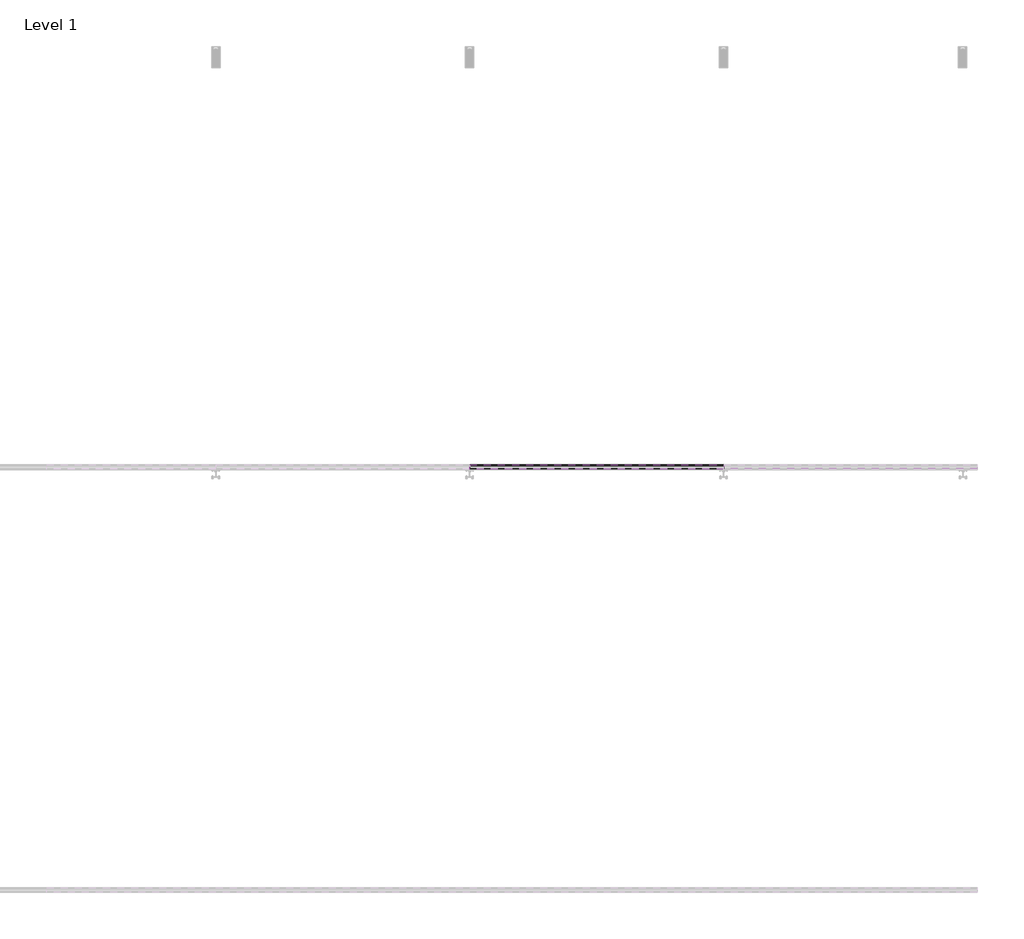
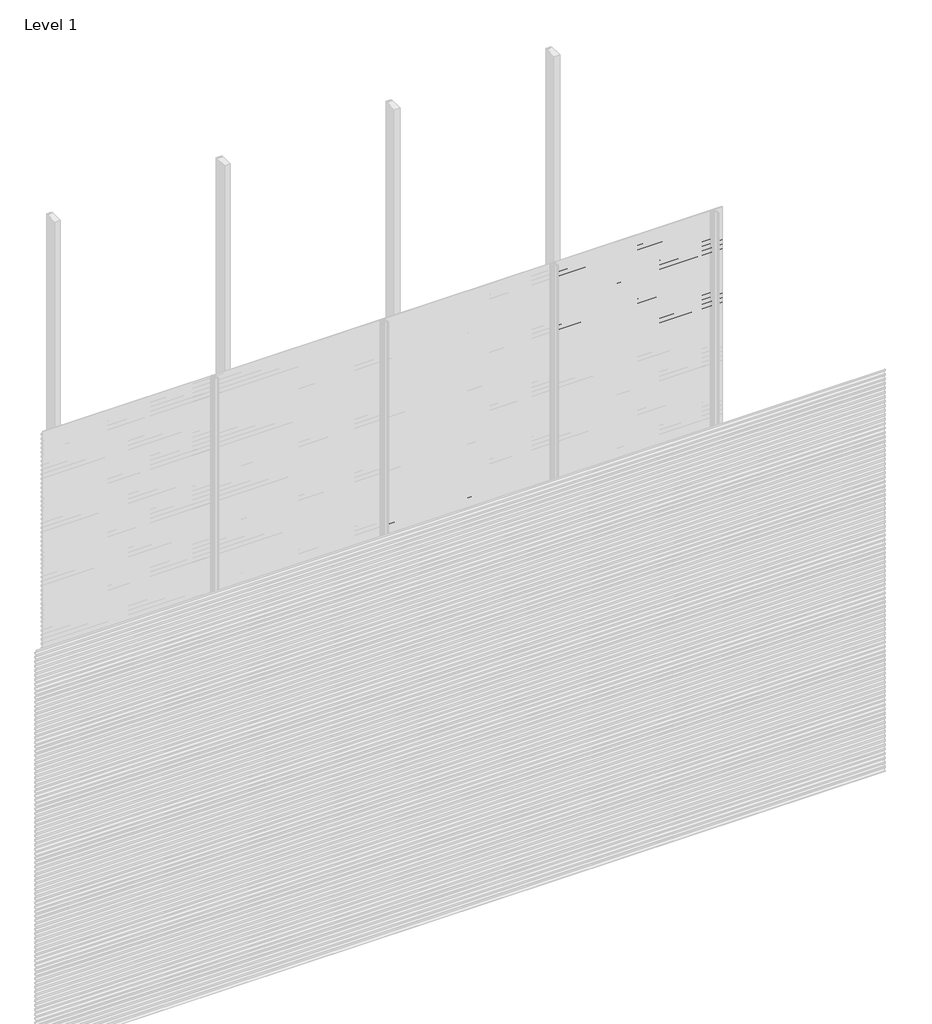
# One storey, part 24 of 77: 72 proxies.
"""IFC4 building model written with IfcOpenShell, lengths in millimetres."""

from ifc_helpers import new_model, si_unit, frame, origin, place, context, project, spatial, polyline, outline, extrude, element, save

model = new_model("IFC4")

# Units and contexts
model_context = context("Model", 3, world=origin())
ifc_project = project(units=[si_unit("LENGTHUNIT", "METRE", prefix="MILLI")], contexts=[model_context])

# Site, building, storey
site = spatial("IfcSite", under=ifc_project)
building = spatial("IfcBuilding", under=site)
storey = spatial("IfcBuildingStorey", under=building, Name="Level 1", Elevation=0.0)

# Proxies
placement = place(None, origin())
element("IfcBuildingElementProxy", 1, Name="Wall Sweeps", at=placement, inside=storey, context=model_context, shape_type="SweptSolid", body=[
    extrude(outline(polyline([(-41978.6, 1607.2359887), (-41998.0, 1618.4366691), (-41998.0, 1631.7), (-41997.0, 1631.7), (-41997.0, 1619.0191057), (-41977.6, 1607.8185105), (-41977.6, 1594.2185105), (-41978.6, 1595.7953129), (-41978.6, 1601.6032062), (-41995.9773817, 1593.5), (-41996.4, 1594.4063078), (-41978.6, 1602.7065841), (-41978.6, 1607.2359887)])), frame((3600.0, 0.0, 0.0), z_axis=(1.0, 0.0, 0.0), x_axis=(0.0, 1.0, 0.0)), (0.0, 0.0, 1.0), 1200.0),
])
element("IfcBuildingElementProxy", 2, Name="Wall Sweeps", at=placement, inside=storey, context=model_context, shape_type="SweptSolid", body=[
    extrude(outline(polyline([(-41978.6, 1573.9359887), (-41998.0, 1585.1366691), (-41998.0, 1598.4), (-41997.0, 1598.4), (-41997.0, 1585.7191057), (-41977.6, 1574.5185105), (-41977.6, 1560.9185105), (-41978.6, 1562.4953129), (-41978.6, 1568.3032062), (-41995.9773817, 1560.2), (-41996.4, 1561.1063078), (-41978.6, 1569.4065841), (-41978.6, 1573.9359887)])), frame((3600.0, 0.0, 0.0), z_axis=(1.0, 0.0, 0.0), x_axis=(0.0, 1.0, 0.0)), (0.0, 0.0, 1.0), 1200.0),
])
element("IfcBuildingElementProxy", 3, Name="Wall Sweeps", at=placement, inside=storey, context=model_context, shape_type="SweptSolid", body=[
    extrude(outline(polyline([(-41978.6, 1540.6359887), (-41998.0, 1551.8366691), (-41998.0, 1565.1), (-41997.0, 1565.1), (-41997.0, 1552.4191057), (-41977.6, 1541.2185105), (-41977.6, 1527.6185105), (-41978.6, 1529.1953129), (-41978.6, 1535.0032062), (-41995.9773817, 1526.9), (-41996.4, 1527.8063078), (-41978.6, 1536.1065841), (-41978.6, 1540.6359887)])), frame((3600.0, 0.0, 0.0), z_axis=(1.0, 0.0, 0.0), x_axis=(0.0, 1.0, 0.0)), (0.0, 0.0, 1.0), 1200.0),
])
element("IfcBuildingElementProxy", 4, Name="Wall Sweeps", at=placement, inside=storey, context=model_context, shape_type="SweptSolid", body=[
    extrude(outline(polyline([(-41978.6, 1507.3359887), (-41998.0, 1518.5366691), (-41998.0, 1531.8), (-41997.0, 1531.8), (-41997.0, 1519.1191057), (-41977.6, 1507.9185105), (-41977.6, 1494.3185105), (-41978.6, 1495.8953129), (-41978.6, 1501.7032062), (-41995.9773817, 1493.6), (-41996.4, 1494.5063078), (-41978.6, 1502.8065841), (-41978.6, 1507.3359887)])), frame((3600.0, 0.0, 0.0), z_axis=(1.0, 0.0, 0.0), x_axis=(0.0, 1.0, 0.0)), (0.0, 0.0, 1.0), 1200.0),
])
element("IfcBuildingElementProxy", 5, Name="Wall Sweeps", at=placement, inside=storey, context=model_context, shape_type="SweptSolid", body=[
    extrude(outline(polyline([(-41978.6, 1474.0359887), (-41998.0, 1485.2366691), (-41998.0, 1498.5), (-41997.0, 1498.5), (-41997.0, 1485.8191057), (-41977.6, 1474.6185105), (-41977.6, 1461.0185105), (-41978.6, 1462.5953129), (-41978.6, 1468.4032062), (-41995.9773817, 1460.3), (-41996.4, 1461.2063078), (-41978.6, 1469.5065841), (-41978.6, 1474.0359887)])), frame((3600.0, 0.0, 0.0), z_axis=(1.0, 0.0, 0.0), x_axis=(0.0, 1.0, 0.0)), (0.0, 0.0, 1.0), 1200.0),
])
element("IfcBuildingElementProxy", 6, Name="Wall Sweeps", at=placement, inside=storey, context=model_context, shape_type="SweptSolid", body=[
    extrude(outline(polyline([(-41978.6, 1440.7359887), (-41998.0, 1451.9366691), (-41998.0, 1465.2), (-41997.0, 1465.2), (-41997.0, 1452.5191057), (-41977.6, 1441.3185105), (-41977.6, 1427.7185105), (-41978.6, 1429.2953129), (-41978.6, 1435.1032062), (-41995.9773817, 1427.0), (-41996.4, 1427.9063078), (-41978.6, 1436.2065841), (-41978.6, 1440.7359887)])), frame((3600.0, 0.0, 0.0), z_axis=(1.0, 0.0, 0.0), x_axis=(0.0, 1.0, 0.0)), (0.0, 0.0, 1.0), 1200.0),
])
element("IfcBuildingElementProxy", 7, Name="Wall Sweeps", at=placement, inside=storey, context=model_context, shape_type="SweptSolid", body=[
    extrude(outline(polyline([(-41978.6, 1407.4359887), (-41998.0, 1418.6366691), (-41998.0, 1431.9), (-41997.0, 1431.9), (-41997.0, 1419.2191057), (-41977.6, 1408.0185105), (-41977.6, 1394.4185105), (-41978.6, 1395.9953129), (-41978.6, 1401.8032062), (-41995.9773817, 1393.7), (-41996.4, 1394.6063078), (-41978.6, 1402.9065841), (-41978.6, 1407.4359887)])), frame((3600.0, 0.0, 0.0), z_axis=(1.0, 0.0, 0.0), x_axis=(0.0, 1.0, 0.0)), (0.0, 0.0, 1.0), 1200.0),
])
element("IfcBuildingElementProxy", 8, Name="Wall Sweeps", at=placement, inside=storey, context=model_context, shape_type="SweptSolid", body=[
    extrude(outline(polyline([(-41978.6, 1374.1359887), (-41998.0, 1385.3366691), (-41998.0, 1398.6), (-41997.0, 1398.6), (-41997.0, 1385.9191057), (-41977.6, 1374.7185105), (-41977.6, 1361.1185105), (-41978.6, 1362.6953129), (-41978.6, 1368.5032062), (-41995.9773817, 1360.4), (-41996.4, 1361.3063078), (-41978.6, 1369.6065841), (-41978.6, 1374.1359887)])), frame((3600.0, 0.0, 0.0), z_axis=(1.0, 0.0, 0.0), x_axis=(0.0, 1.0, 0.0)), (0.0, 0.0, 1.0), 1200.0),
])
element("IfcBuildingElementProxy", 9, Name="Wall Sweeps", at=placement, inside=storey, context=model_context, shape_type="SweptSolid", body=[
    extrude(outline(polyline([(-41978.6, 1340.8359887), (-41998.0, 1352.0366691), (-41998.0, 1365.3), (-41997.0, 1365.3), (-41997.0, 1352.6191057), (-41977.6, 1341.4185105), (-41977.6, 1327.8185105), (-41978.6, 1329.3953129), (-41978.6, 1335.2032062), (-41995.9773817, 1327.1), (-41996.4, 1328.0063078), (-41978.6, 1336.3065841), (-41978.6, 1340.8359887)])), frame((3600.0, 0.0, 0.0), z_axis=(1.0, 0.0, 0.0), x_axis=(0.0, 1.0, 0.0)), (0.0, 0.0, 1.0), 1200.0),
])
element("IfcBuildingElementProxy", 10, Name="Wall Sweeps", at=placement, inside=storey, context=model_context, shape_type="SweptSolid", body=[
    extrude(outline(polyline([(-41978.6, 1307.5359887), (-41998.0, 1318.7366691), (-41998.0, 1332.0), (-41997.0, 1332.0), (-41997.0, 1319.3191057), (-41977.6, 1308.1185105), (-41977.6, 1294.5185105), (-41978.6, 1296.0953129), (-41978.6, 1301.9032062), (-41995.9773817, 1293.8), (-41996.4, 1294.7063078), (-41978.6, 1303.0065841), (-41978.6, 1307.5359887)])), frame((3600.0, 0.0, 0.0), z_axis=(1.0, 0.0, 0.0), x_axis=(0.0, 1.0, 0.0)), (0.0, 0.0, 1.0), 1200.0),
])
element("IfcBuildingElementProxy", 11, Name="Wall Sweeps", at=placement, inside=storey, context=model_context, shape_type="SweptSolid", body=[
    extrude(outline(polyline([(-41978.6, 1274.2359887), (-41998.0, 1285.4366691), (-41998.0, 1298.7), (-41997.0, 1298.7), (-41997.0, 1286.0191057), (-41977.6, 1274.8185105), (-41977.6, 1261.2185105), (-41978.6, 1262.7953129), (-41978.6, 1268.6032062), (-41995.9773817, 1260.5), (-41996.4, 1261.4063078), (-41978.6, 1269.7065841), (-41978.6, 1274.2359887)])), frame((3600.0, 0.0, 0.0), z_axis=(1.0, 0.0, 0.0), x_axis=(0.0, 1.0, 0.0)), (0.0, 0.0, 1.0), 1200.0),
])
element("IfcBuildingElementProxy", 12, Name="Wall Sweeps", at=placement, inside=storey, context=model_context, shape_type="SweptSolid", body=[
    extrude(outline(polyline([(-41978.6, 1240.9359887), (-41998.0, 1252.1366691), (-41998.0, 1265.4), (-41997.0, 1265.4), (-41997.0, 1252.7191057), (-41977.6, 1241.5185105), (-41977.6, 1227.9185105), (-41978.6, 1229.4953129), (-41978.6, 1235.3032062), (-41995.9773817, 1227.2), (-41996.4, 1228.1063078), (-41978.6, 1236.4065841), (-41978.6, 1240.9359887)])), frame((3600.0, 0.0, 0.0), z_axis=(1.0, 0.0, 0.0), x_axis=(0.0, 1.0, 0.0)), (0.0, 0.0, 1.0), 1200.0),
])
element("IfcBuildingElementProxy", 13, Name="Wall Sweeps", at=placement, inside=storey, context=model_context, shape_type="SweptSolid", body=[
    extrude(outline(polyline([(-41978.6, 1207.6359887), (-41998.0, 1218.8366691), (-41998.0, 1232.1), (-41997.0, 1232.1), (-41997.0, 1219.4191057), (-41977.6, 1208.2185105), (-41977.6, 1194.6185105), (-41978.6, 1196.1953129), (-41978.6, 1202.0032062), (-41995.9773817, 1193.9), (-41996.4, 1194.8063078), (-41978.6, 1203.1065841), (-41978.6, 1207.6359887)])), frame((3600.0, 0.0, 0.0), z_axis=(1.0, 0.0, 0.0), x_axis=(0.0, 1.0, 0.0)), (0.0, 0.0, 1.0), 1200.0),
])
element("IfcBuildingElementProxy", 14, Name="Wall Sweeps", at=placement, inside=storey, context=model_context, shape_type="SweptSolid", body=[
    extrude(outline(polyline([(-41978.6, 1174.3359887), (-41998.0, 1185.5366691), (-41998.0, 1198.8), (-41997.0, 1198.8), (-41997.0, 1186.1191057), (-41977.6, 1174.9185105), (-41977.6, 1161.3185105), (-41978.6, 1162.8953129), (-41978.6, 1168.7032062), (-41995.9773817, 1160.6), (-41996.4, 1161.5063078), (-41978.6, 1169.8065841), (-41978.6, 1174.3359887)])), frame((3600.0, 0.0, 0.0), z_axis=(1.0, 0.0, 0.0), x_axis=(0.0, 1.0, 0.0)), (0.0, 0.0, 1.0), 1200.0),
])
element("IfcBuildingElementProxy", 15, Name="Wall Sweeps", at=placement, inside=storey, context=model_context, shape_type="SweptSolid", body=[
    extrude(outline(polyline([(-41978.6, 1141.0359887), (-41998.0, 1152.2366691), (-41998.0, 1165.5), (-41997.0, 1165.5), (-41997.0, 1152.8191057), (-41977.6, 1141.6185105), (-41977.6, 1128.0185105), (-41978.6, 1129.5953129), (-41978.6, 1135.4032062), (-41995.9773817, 1127.3), (-41996.4, 1128.2063078), (-41978.6, 1136.5065841), (-41978.6, 1141.0359887)])), frame((3600.0, 0.0, 0.0), z_axis=(1.0, 0.0, 0.0), x_axis=(0.0, 1.0, 0.0)), (0.0, 0.0, 1.0), 1200.0),
])
element("IfcBuildingElementProxy", 16, Name="Wall Sweeps", at=placement, inside=storey, context=model_context, shape_type="SweptSolid", body=[
    extrude(outline(polyline([(-41978.6, 1107.7359887), (-41998.0, 1118.9366691), (-41998.0, 1132.2), (-41997.0, 1132.2), (-41997.0, 1119.5191057), (-41977.6, 1108.3185105), (-41977.6, 1094.7185105), (-41978.6, 1096.2953129), (-41978.6, 1102.1032062), (-41995.9773817, 1094.0), (-41996.4, 1094.9063078), (-41978.6, 1103.2065841), (-41978.6, 1107.7359887)])), frame((3600.0, 0.0, 0.0), z_axis=(1.0, 0.0, 0.0), x_axis=(0.0, 1.0, 0.0)), (0.0, 0.0, 1.0), 1200.0),
])
element("IfcBuildingElementProxy", 17, Name="Wall Sweeps", at=placement, inside=storey, context=model_context, shape_type="SweptSolid", body=[
    extrude(outline(polyline([(-41978.6, 1074.4359887), (-41998.0, 1085.6366691), (-41998.0, 1098.9), (-41997.0, 1098.9), (-41997.0, 1086.2191057), (-41977.6, 1075.0185105), (-41977.6, 1061.4185105), (-41978.6, 1062.9953129), (-41978.6, 1068.8032062), (-41995.9773817, 1060.7), (-41996.4, 1061.6063078), (-41978.6, 1069.9065841), (-41978.6, 1074.4359887)])), frame((3600.0, 0.0, 0.0), z_axis=(1.0, 0.0, 0.0), x_axis=(0.0, 1.0, 0.0)), (0.0, 0.0, 1.0), 1200.0),
])
element("IfcBuildingElementProxy", 18, Name="Wall Sweeps", at=placement, inside=storey, context=model_context, shape_type="SweptSolid", body=[
    extrude(outline(polyline([(-41978.6, 1041.1359887), (-41998.0, 1052.3366691), (-41998.0, 1065.6), (-41997.0, 1065.6), (-41997.0, 1052.9191057), (-41977.6, 1041.7185105), (-41977.6, 1028.1185105), (-41978.6, 1029.6953129), (-41978.6, 1035.5032062), (-41995.9773817, 1027.4), (-41996.4, 1028.3063078), (-41978.6, 1036.6065841), (-41978.6, 1041.1359887)])), frame((3600.0, 0.0, 0.0), z_axis=(1.0, 0.0, 0.0), x_axis=(0.0, 1.0, 0.0)), (0.0, 0.0, 1.0), 1200.0),
])
element("IfcBuildingElementProxy", 19, Name="Wall Sweeps", at=placement, inside=storey, context=model_context, shape_type="SweptSolid", body=[
    extrude(outline(polyline([(-41978.6, 1007.8359887), (-41998.0, 1019.0366691), (-41998.0, 1032.3), (-41997.0, 1032.3), (-41997.0, 1019.6191057), (-41977.6, 1008.4185105), (-41977.6, 994.8185105), (-41978.6, 996.3953129), (-41978.6, 1002.2032062), (-41995.9773817, 994.1), (-41996.4, 995.0063078), (-41978.6, 1003.3065841), (-41978.6, 1007.8359887)])), frame((3600.0, 0.0, 0.0), z_axis=(1.0, 0.0, 0.0), x_axis=(0.0, 1.0, 0.0)), (0.0, 0.0, 1.0), 1200.0),
])
element("IfcBuildingElementProxy", 20, Name="Wall Sweeps", at=placement, inside=storey, context=model_context, shape_type="SweptSolid", body=[
    extrude(outline(polyline([(-41978.6, 974.5359887), (-41998.0, 985.7366691), (-41998.0, 999.0), (-41997.0, 999.0), (-41997.0, 986.3191057), (-41977.6, 975.1185105), (-41977.6, 961.5185105), (-41978.6, 963.0953129), (-41978.6, 968.9032062), (-41995.9773817, 960.8), (-41996.4, 961.7063078), (-41978.6, 970.0065841), (-41978.6, 974.5359887)])), frame((3600.0, 0.0, 0.0), z_axis=(1.0, 0.0, 0.0), x_axis=(0.0, 1.0, 0.0)), (0.0, 0.0, 1.0), 1200.0),
])
element("IfcBuildingElementProxy", 21, Name="Wall Sweeps", at=placement, inside=storey, context=model_context, shape_type="SweptSolid", body=[
    extrude(outline(polyline([(-41978.6, 941.2359887), (-41998.0, 952.4366691), (-41998.0, 965.7), (-41997.0, 965.7), (-41997.0, 953.0191057), (-41977.6, 941.8185105), (-41977.6, 928.2185105), (-41978.6, 929.7953129), (-41978.6, 935.6032062), (-41995.9773817, 927.5), (-41996.4, 928.4063078), (-41978.6, 936.7065841), (-41978.6, 941.2359887)])), frame((3600.0, 0.0, 0.0), z_axis=(1.0, 0.0, 0.0), x_axis=(0.0, 1.0, 0.0)), (0.0, 0.0, 1.0), 1200.0),
])
element("IfcBuildingElementProxy", 22, Name="Wall Sweeps", at=placement, inside=storey, context=model_context, shape_type="SweptSolid", body=[
    extrude(outline(polyline([(-41978.6, 907.9359887), (-41998.0, 919.1366691), (-41998.0, 932.4), (-41997.0, 932.4), (-41997.0, 919.7191057), (-41977.6, 908.5185105), (-41977.6, 894.9185105), (-41978.6, 896.4953129), (-41978.6, 902.3032062), (-41995.9773817, 894.2), (-41996.4, 895.1063078), (-41978.6, 903.4065841), (-41978.6, 907.9359887)])), frame((3600.0, 0.0, 0.0), z_axis=(1.0, 0.0, 0.0), x_axis=(0.0, 1.0, 0.0)), (0.0, 0.0, 1.0), 1200.0),
])
element("IfcBuildingElementProxy", 23, Name="Wall Sweeps", at=placement, inside=storey, context=model_context, shape_type="SweptSolid", body=[
    extrude(outline(polyline([(-41978.6, 874.6359887), (-41998.0, 885.8366691), (-41998.0, 899.1), (-41997.0, 899.1), (-41997.0, 886.4191057), (-41977.6, 875.2185105), (-41977.6, 861.6185105), (-41978.6, 863.1953129), (-41978.6, 869.0032062), (-41995.9773817, 860.9), (-41996.4, 861.8063078), (-41978.6, 870.1065841), (-41978.6, 874.6359887)])), frame((3600.0, 0.0, 0.0), z_axis=(1.0, 0.0, 0.0), x_axis=(0.0, 1.0, 0.0)), (0.0, 0.0, 1.0), 1200.0),
])
element("IfcBuildingElementProxy", 24, Name="Wall Sweeps", at=placement, inside=storey, context=model_context, shape_type="SweptSolid", body=[
    extrude(outline(polyline([(-41978.6, 841.3359887), (-41998.0, 852.5366691), (-41998.0, 865.8), (-41997.0, 865.8), (-41997.0, 853.1191057), (-41977.6, 841.9185105), (-41977.6, 828.3185105), (-41978.6, 829.8953129), (-41978.6, 835.7032062), (-41995.9773817, 827.6), (-41996.4, 828.5063078), (-41978.6, 836.8065841), (-41978.6, 841.3359887)])), frame((3600.0, 0.0, 0.0), z_axis=(1.0, 0.0, 0.0), x_axis=(0.0, 1.0, 0.0)), (0.0, 0.0, 1.0), 1200.0),
])
element("IfcBuildingElementProxy", 25, Name="Wall Sweeps", at=placement, inside=storey, context=model_context, shape_type="SweptSolid", body=[
    extrude(outline(polyline([(-41978.6, 808.0359887), (-41998.0, 819.2366691), (-41998.0, 832.5), (-41997.0, 832.5), (-41997.0, 819.8191057), (-41977.6, 808.6185105), (-41977.6, 795.0185105), (-41978.6, 796.5953129), (-41978.6, 802.4032062), (-41995.9773817, 794.3), (-41996.4, 795.2063078), (-41978.6, 803.5065841), (-41978.6, 808.0359887)])), frame((3600.0, 0.0, 0.0), z_axis=(1.0, 0.0, 0.0), x_axis=(0.0, 1.0, 0.0)), (0.0, 0.0, 1.0), 1200.0),
])
element("IfcBuildingElementProxy", 26, Name="Wall Sweeps", at=placement, inside=storey, context=model_context, shape_type="SweptSolid", body=[
    extrude(outline(polyline([(-41978.6, 774.7359887), (-41998.0, 785.9366691), (-41998.0, 799.2), (-41997.0, 799.2), (-41997.0, 786.5191057), (-41977.6, 775.3185105), (-41977.6, 761.7185105), (-41978.6, 763.2953129), (-41978.6, 769.1032062), (-41995.9773817, 761.0), (-41996.4, 761.9063078), (-41978.6, 770.2065841), (-41978.6, 774.7359887)])), frame((3600.0, 0.0, 0.0), z_axis=(1.0, 0.0, 0.0), x_axis=(0.0, 1.0, 0.0)), (0.0, 0.0, 1.0), 1200.0),
])
element("IfcBuildingElementProxy", 27, Name="Wall Sweeps", at=placement, inside=storey, context=model_context, shape_type="SweptSolid", body=[
    extrude(outline(polyline([(-41978.6, 741.4359887), (-41998.0, 752.6366691), (-41998.0, 765.9), (-41997.0, 765.9), (-41997.0, 753.2191057), (-41977.6, 742.0185105), (-41977.6, 728.4185105), (-41978.6, 729.9953129), (-41978.6, 735.8032062), (-41995.9773817, 727.7), (-41996.4, 728.6063078), (-41978.6, 736.9065841), (-41978.6, 741.4359887)])), frame((3600.0, 0.0, 0.0), z_axis=(1.0, 0.0, 0.0), x_axis=(0.0, 1.0, 0.0)), (0.0, 0.0, 1.0), 1200.0),
])
element("IfcBuildingElementProxy", 28, Name="Wall Sweeps", at=placement, inside=storey, context=model_context, shape_type="SweptSolid", body=[
    extrude(outline(polyline([(-41978.6, 708.1359887), (-41998.0, 719.3366691), (-41998.0, 732.6), (-41997.0, 732.6), (-41997.0, 719.9191057), (-41977.6, 708.7185105), (-41977.6, 695.1185105), (-41978.6, 696.6953129), (-41978.6, 702.5032062), (-41995.9773817, 694.4), (-41996.4, 695.3063078), (-41978.6, 703.6065841), (-41978.6, 708.1359887)])), frame((3600.0, 0.0, 0.0), z_axis=(1.0, 0.0, 0.0), x_axis=(0.0, 1.0, 0.0)), (0.0, 0.0, 1.0), 1200.0),
])
element("IfcBuildingElementProxy", 29, Name="Wall Sweeps", at=placement, inside=storey, context=model_context, shape_type="SweptSolid", body=[
    extrude(outline(polyline([(-41978.6, 674.8359887), (-41998.0, 686.0366691), (-41998.0, 699.3), (-41997.0, 699.3), (-41997.0, 686.6191057), (-41977.6, 675.4185105), (-41977.6, 661.8185105), (-41978.6, 663.3953129), (-41978.6, 669.2032062), (-41995.9773817, 661.1), (-41996.4, 662.0063078), (-41978.6, 670.3065841), (-41978.6, 674.8359887)])), frame((3600.0, 0.0, 0.0), z_axis=(1.0, 0.0, 0.0), x_axis=(0.0, 1.0, 0.0)), (0.0, 0.0, 1.0), 1200.0),
])
element("IfcBuildingElementProxy", 30, Name="Wall Sweeps", at=placement, inside=storey, context=model_context, shape_type="SweptSolid", body=[
    extrude(outline(polyline([(-41978.6, 641.5359887), (-41998.0, 652.7366691), (-41998.0, 666.0), (-41997.0, 666.0), (-41997.0, 653.3191057), (-41977.6, 642.1185105), (-41977.6, 628.5185105), (-41978.6, 630.0953129), (-41978.6, 635.9032062), (-41995.9773817, 627.8), (-41996.4, 628.7063078), (-41978.6, 637.0065841), (-41978.6, 641.5359887)])), frame((3600.0, 0.0, 0.0), z_axis=(1.0, 0.0, 0.0), x_axis=(0.0, 1.0, 0.0)), (0.0, 0.0, 1.0), 1200.0),
])
element("IfcBuildingElementProxy", 31, Name="Wall Sweeps", at=placement, inside=storey, context=model_context, shape_type="SweptSolid", body=[
    extrude(outline(polyline([(-41978.6, 608.2359887), (-41998.0, 619.4366691), (-41998.0, 632.7), (-41997.0, 632.7), (-41997.0, 620.0191057), (-41977.6, 608.8185105), (-41977.6, 595.2185105), (-41978.6, 596.7953129), (-41978.6, 602.6032062), (-41995.9773817, 594.5), (-41996.4, 595.4063078), (-41978.6, 603.7065841), (-41978.6, 608.2359887)])), frame((3600.0, 0.0, 0.0), z_axis=(1.0, 0.0, 0.0), x_axis=(0.0, 1.0, 0.0)), (0.0, 0.0, 1.0), 1200.0),
])
element("IfcBuildingElementProxy", 32, Name="Wall Sweeps", at=placement, inside=storey, context=model_context, shape_type="SweptSolid", body=[
    extrude(outline(polyline([(-41978.6, 574.9359887), (-41998.0, 586.1366691), (-41998.0, 599.4), (-41997.0, 599.4), (-41997.0, 586.7191057), (-41977.6, 575.5185105), (-41977.6, 561.9185105), (-41978.6, 563.4953129), (-41978.6, 569.3032062), (-41995.9773817, 561.2), (-41996.4, 562.1063078), (-41978.6, 570.4065841), (-41978.6, 574.9359887)])), frame((3600.0, 0.0, 0.0), z_axis=(1.0, 0.0, 0.0), x_axis=(0.0, 1.0, 0.0)), (0.0, 0.0, 1.0), 1200.0),
])
element("IfcBuildingElementProxy", 33, Name="Wall Sweeps", at=placement, inside=storey, context=model_context, shape_type="SweptSolid", body=[
    extrude(outline(polyline([(-41978.6, 541.6359887), (-41998.0, 552.8366691), (-41998.0, 566.1), (-41997.0, 566.1), (-41997.0, 553.4191057), (-41977.6, 542.2185105), (-41977.6, 528.6185105), (-41978.6, 530.1953129), (-41978.6, 536.0032062), (-41995.9773817, 527.9), (-41996.4, 528.8063078), (-41978.6, 537.1065841), (-41978.6, 541.6359887)])), frame((3600.0, 0.0, 0.0), z_axis=(1.0, 0.0, 0.0), x_axis=(0.0, 1.0, 0.0)), (0.0, 0.0, 1.0), 1200.0),
])
element("IfcBuildingElementProxy", 34, Name="Wall Sweeps", at=placement, inside=storey, context=model_context, shape_type="SweptSolid", body=[
    extrude(outline(polyline([(-41978.6, 508.3359887), (-41998.0, 519.5366691), (-41998.0, 532.8), (-41997.0, 532.8), (-41997.0, 520.1191057), (-41977.6, 508.9185105), (-41977.6, 495.3185105), (-41978.6, 496.8953129), (-41978.6, 502.7032062), (-41995.9773817, 494.6), (-41996.4, 495.5063078), (-41978.6, 503.8065841), (-41978.6, 508.3359887)])), frame((3600.0, 0.0, 0.0), z_axis=(1.0, 0.0, 0.0), x_axis=(0.0, 1.0, 0.0)), (0.0, 0.0, 1.0), 1200.0),
])
element("IfcBuildingElementProxy", 35, Name="Wall Sweeps", at=placement, inside=storey, context=model_context, shape_type="SweptSolid", body=[
    extrude(outline(polyline([(-41978.6, 475.0359887), (-41998.0, 486.2366691), (-41998.0, 499.5), (-41997.0, 499.5), (-41997.0, 486.8191057), (-41977.6, 475.6185105), (-41977.6, 462.0185105), (-41978.6, 463.5953129), (-41978.6, 469.4032062), (-41995.9773817, 461.3), (-41996.4, 462.2063078), (-41978.6, 470.5065841), (-41978.6, 475.0359887)])), frame((3600.0, 0.0, 0.0), z_axis=(1.0, 0.0, 0.0), x_axis=(0.0, 1.0, 0.0)), (0.0, 0.0, 1.0), 1200.0),
])
element("IfcBuildingElementProxy", 36, Name="Wall Sweeps", at=placement, inside=storey, context=model_context, shape_type="SweptSolid", body=[
    extrude(outline(polyline([(-41978.6, 441.7359887), (-41998.0, 452.9366691), (-41998.0, 466.2), (-41997.0, 466.2), (-41997.0, 453.5191057), (-41977.6, 442.3185105), (-41977.6, 428.7185105), (-41978.6, 430.2953129), (-41978.6, 436.1032062), (-41995.9773817, 428.0), (-41996.4, 428.9063078), (-41978.6, 437.2065841), (-41978.6, 441.7359887)])), frame((3600.0, 0.0, 0.0), z_axis=(1.0, 0.0, 0.0), x_axis=(0.0, 1.0, 0.0)), (0.0, 0.0, 1.0), 1200.0),
])
element("IfcBuildingElementProxy", 37, Name="Wall Sweeps", at=placement, inside=storey, context=model_context, shape_type="SweptSolid", body=[
    extrude(outline(polyline([(-41978.6, 408.4359887), (-41998.0, 419.6366691), (-41998.0, 432.9), (-41997.0, 432.9), (-41997.0, 420.2191057), (-41977.6, 409.0185105), (-41977.6, 395.4185105), (-41978.6, 396.9953129), (-41978.6, 402.8032062), (-41995.9773817, 394.7), (-41996.4, 395.6063078), (-41978.6, 403.9065841), (-41978.6, 408.4359887)])), frame((3600.0, 0.0, 0.0), z_axis=(1.0, 0.0, 0.0), x_axis=(0.0, 1.0, 0.0)), (0.0, 0.0, 1.0), 1200.0),
])
element("IfcBuildingElementProxy", 38, Name="Wall Sweeps", at=placement, inside=storey, context=model_context, shape_type="SweptSolid", body=[
    extrude(outline(polyline([(-41978.6, 375.1359887), (-41998.0, 386.3366691), (-41998.0, 399.6), (-41997.0, 399.6), (-41997.0, 386.9191057), (-41977.6, 375.7185105), (-41977.6, 362.1185105), (-41978.6, 363.6953129), (-41978.6, 369.5032062), (-41995.9773817, 361.4), (-41996.4, 362.3063078), (-41978.6, 370.6065841), (-41978.6, 375.1359887)])), frame((3600.0, 0.0, 0.0), z_axis=(1.0, 0.0, 0.0), x_axis=(0.0, 1.0, 0.0)), (0.0, 0.0, 1.0), 1200.0),
])
element("IfcBuildingElementProxy", 39, Name="Wall Sweeps", at=placement, inside=storey, context=model_context, shape_type="SweptSolid", body=[
    extrude(outline(polyline([(-41978.6, 341.8359887), (-41998.0, 353.0366691), (-41998.0, 366.3), (-41997.0, 366.3), (-41997.0, 353.6191057), (-41977.6, 342.4185105), (-41977.6, 328.8185105), (-41978.6, 330.3953129), (-41978.6, 336.2032062), (-41995.9773817, 328.1), (-41996.4, 329.0063078), (-41978.6, 337.3065841), (-41978.6, 341.8359887)])), frame((3600.0, 0.0, 0.0), z_axis=(1.0, 0.0, 0.0), x_axis=(0.0, 1.0, 0.0)), (0.0, 0.0, 1.0), 1200.0),
])
element("IfcBuildingElementProxy", 40, Name="Wall Sweeps", at=placement, inside=storey, context=model_context, shape_type="SweptSolid", body=[
    extrude(outline(polyline([(-41978.6, 308.5359887), (-41998.0, 319.7366691), (-41998.0, 333.0), (-41997.0, 333.0), (-41997.0, 320.3191057), (-41977.6, 309.1185105), (-41977.6, 295.5185105), (-41978.6, 297.0953129), (-41978.6, 302.9032062), (-41995.9773817, 294.8), (-41996.4, 295.7063078), (-41978.6, 304.0065841), (-41978.6, 308.5359887)])), frame((3600.0, 0.0, 0.0), z_axis=(1.0, 0.0, 0.0), x_axis=(0.0, 1.0, 0.0)), (0.0, 0.0, 1.0), 1200.0),
])
element("IfcBuildingElementProxy", 41, Name="Wall Sweeps", at=placement, inside=storey, context=model_context, shape_type="SweptSolid", body=[
    extrude(outline(polyline([(-41978.6, 275.2359887), (-41998.0, 286.4366691), (-41998.0, 299.7), (-41997.0, 299.7), (-41997.0, 287.0191057), (-41977.6, 275.8185105), (-41977.6, 262.2185105), (-41978.6, 263.7953129), (-41978.6, 269.6032062), (-41995.9773817, 261.5), (-41996.4, 262.4063078), (-41978.6, 270.7065841), (-41978.6, 275.2359887)])), frame((3600.0, 0.0, 0.0), z_axis=(1.0, 0.0, 0.0), x_axis=(0.0, 1.0, 0.0)), (0.0, 0.0, 1.0), 1200.0),
])
element("IfcBuildingElementProxy", 42, Name="Wall Sweeps", at=placement, inside=storey, context=model_context, shape_type="SweptSolid", body=[
    extrude(outline(polyline([(-41978.6, 241.9359887), (-41998.0, 253.1366691), (-41998.0, 266.4), (-41997.0, 266.4), (-41997.0, 253.7191057), (-41977.6, 242.5185105), (-41977.6, 228.9185105), (-41978.6, 230.4953129), (-41978.6, 236.3032062), (-41995.9773817, 228.2), (-41996.4, 229.1063078), (-41978.6, 237.4065841), (-41978.6, 241.9359887)])), frame((3600.0, 0.0, 0.0), z_axis=(1.0, 0.0, 0.0), x_axis=(0.0, 1.0, 0.0)), (0.0, 0.0, 1.0), 1200.0),
])
element("IfcBuildingElementProxy", 43, Name="Wall Sweeps", at=placement, inside=storey, context=model_context, shape_type="SweptSolid", body=[
    extrude(outline(polyline([(-41978.6, 208.6359887), (-41998.0, 219.8366691), (-41998.0, 233.1), (-41997.0, 233.1), (-41997.0, 220.4191057), (-41977.6, 209.2185105), (-41977.6, 195.6185105), (-41978.6, 197.1953129), (-41978.6, 203.0032062), (-41995.9773817, 194.9), (-41996.4, 195.8063078), (-41978.6, 204.1065841), (-41978.6, 208.6359887)])), frame((3600.0, 0.0, 0.0), z_axis=(1.0, 0.0, 0.0), x_axis=(0.0, 1.0, 0.0)), (0.0, 0.0, 1.0), 1200.0),
])
element("IfcBuildingElementProxy", 44, Name="Wall Sweeps", at=placement, inside=storey, context=model_context, shape_type="SweptSolid", body=[
    extrude(outline(polyline([(-41978.6, 175.3359887), (-41998.0, 186.5366691), (-41998.0, 199.8), (-41997.0, 199.8), (-41997.0, 187.1191057), (-41977.6, 175.9185105), (-41977.6, 162.3185105), (-41978.6, 163.8953129), (-41978.6, 169.7032062), (-41995.9773817, 161.6), (-41996.4, 162.5063078), (-41978.6, 170.8065841), (-41978.6, 175.3359887)])), frame((3600.0, 0.0, 0.0), z_axis=(1.0, 0.0, 0.0), x_axis=(0.0, 1.0, 0.0)), (0.0, 0.0, 1.0), 1200.0),
])
element("IfcBuildingElementProxy", 45, Name="Wall Sweeps", at=placement, inside=storey, context=model_context, shape_type="SweptSolid", body=[
    extrude(outline(polyline([(-41978.6, 142.0359887), (-41998.0, 153.2366691), (-41998.0, 166.5), (-41997.0, 166.5), (-41997.0, 153.8191057), (-41977.6, 142.6185105), (-41977.6, 129.0185105), (-41978.6, 130.5953129), (-41978.6, 136.4032062), (-41995.9773817, 128.3), (-41996.4, 129.2063078), (-41978.6, 137.5065841), (-41978.6, 142.0359887)])), frame((3600.0, 0.0, 0.0), z_axis=(1.0, 0.0, 0.0), x_axis=(0.0, 1.0, 0.0)), (0.0, 0.0, 1.0), 1200.0),
])
element("IfcBuildingElementProxy", 46, Name="Wall Sweeps", at=placement, inside=storey, context=model_context, shape_type="SweptSolid", body=[
    extrude(outline(polyline([(-41978.6, 108.7359887), (-41998.0, 119.9366691), (-41998.0, 133.2), (-41997.0, 133.2), (-41997.0, 120.5191057), (-41977.6, 109.3185105), (-41977.6, 95.7185105), (-41978.6, 97.2953129), (-41978.6, 103.1032062), (-41995.9773817, 95.0), (-41996.4, 95.9063078), (-41978.6, 104.2065841), (-41978.6, 108.7359887)])), frame((3600.0, 0.0, 0.0), z_axis=(1.0, 0.0, 0.0), x_axis=(0.0, 1.0, 0.0)), (0.0, 0.0, 1.0), 1200.0),
])
element("IfcBuildingElementProxy", 47, Name="Wall Sweeps", at=placement, inside=storey, context=model_context, shape_type="SweptSolid", body=[
    extrude(outline(polyline([(-41978.6, 75.4359887), (-41998.0, 86.6366691), (-41998.0, 99.9), (-41997.0, 99.9), (-41997.0, 87.2191057), (-41977.6, 76.0185105), (-41977.6, 62.4185105), (-41978.6, 63.9953129), (-41978.6, 69.8032062), (-41995.9773817, 61.7), (-41996.4, 62.6063078), (-41978.6, 70.9065841), (-41978.6, 75.4359887)])), frame((3600.0, 0.0, 0.0), z_axis=(1.0, 0.0, 0.0), x_axis=(0.0, 1.0, 0.0)), (0.0, 0.0, 1.0), 1200.0),
])
element("IfcBuildingElementProxy", 48, Name="Wall Sweeps", at=placement, inside=storey, context=model_context, shape_type="SweptSolid", body=[
    extrude(outline(polyline([(-41978.6, 42.1359887), (-41998.0, 53.3366691), (-41998.0, 66.6), (-41997.0, 66.6), (-41997.0, 53.9191057), (-41977.6, 42.7185105), (-41977.6, 29.1185105), (-41978.6, 30.6953129), (-41978.6, 36.5032062), (-41995.9773817, 28.4), (-41996.4, 29.3063078), (-41978.6, 37.6065841), (-41978.6, 42.1359887)])), frame((3600.0, 0.0, 0.0), z_axis=(1.0, 0.0, 0.0), x_axis=(0.0, 1.0, 0.0)), (0.0, 0.0, 1.0), 1200.0),
])
element("IfcBuildingElementProxy", 49, Name="Wall Sweeps", at=placement, inside=storey, context=model_context, shape_type="SweptSolid", body=[
    extrude(outline(polyline([(-41978.6, 8.8359887), (-41998.0, 20.0366691), (-41998.0, 33.3), (-41997.0, 33.3), (-41997.0, 20.6191057), (-41977.6, 9.4185105), (-41977.6, -4.1814895), (-41978.6, -2.6046871), (-41978.6, 3.2032062), (-41995.9773817, -4.9), (-41996.4, -3.9936922), (-41978.6, 4.3065841), (-41978.6, 8.8359887)])), frame((3600.0, 0.0, 0.0), z_axis=(1.0, 0.0, 0.0), x_axis=(0.0, 1.0, 0.0)), (0.0, 0.0, 1.0), 1200.0),
])
element("IfcBuildingElementProxy", 50, Name="Wall Sweeps", at=placement, inside=storey, context=model_context, shape_type="SweptSolid", body=[
    extrude(outline(polyline([(-41978.6, 2972.5359887), (-41998.0, 2983.7366691), (-41998.0, 2997.0), (-41997.0, 2997.0), (-41997.0, 2984.3191057), (-41977.6, 2973.1185105), (-41977.6, 2959.5185105), (-41978.6, 2961.0953129), (-41978.6, 2966.9032062), (-41995.9773817, 2958.8), (-41996.4, 2959.7063078), (-41978.6, 2968.0065841), (-41978.6, 2972.5359887)])), frame((4800.0, 0.0, 0.0), z_axis=(1.0, 0.0, 0.0), x_axis=(0.0, 1.0, 0.0)), (0.0, 0.0, 1.0), 1200.0),
])
element("IfcBuildingElementProxy", 51, Name="Wall Sweeps", at=placement, inside=storey, context=model_context, shape_type="SweptSolid", body=[
    extrude(outline(polyline([(-41978.6, 2939.2359887), (-41998.0, 2950.4366691), (-41998.0, 2963.7), (-41997.0, 2963.7), (-41997.0, 2951.0191057), (-41977.6, 2939.8185105), (-41977.6, 2926.2185105), (-41978.6, 2927.7953129), (-41978.6, 2933.6032062), (-41995.9773817, 2925.5), (-41996.4, 2926.4063078), (-41978.6, 2934.7065841), (-41978.6, 2939.2359887)])), frame((4800.0, 0.0, 0.0), z_axis=(1.0, 0.0, 0.0), x_axis=(0.0, 1.0, 0.0)), (0.0, 0.0, 1.0), 1200.0),
])
element("IfcBuildingElementProxy", 52, Name="Wall Sweeps", at=placement, inside=storey, context=model_context, shape_type="SweptSolid", body=[
    extrude(outline(polyline([(-41978.6, 2905.9359887), (-41998.0, 2917.1366691), (-41998.0, 2930.4), (-41997.0, 2930.4), (-41997.0, 2917.7191057), (-41977.6, 2906.5185105), (-41977.6, 2892.9185105), (-41978.6, 2894.4953129), (-41978.6, 2900.3032062), (-41995.9773817, 2892.2), (-41996.4, 2893.1063078), (-41978.6, 2901.4065841), (-41978.6, 2905.9359887)])), frame((4800.0, 0.0, 0.0), z_axis=(1.0, 0.0, 0.0), x_axis=(0.0, 1.0, 0.0)), (0.0, 0.0, 1.0), 1200.0),
])
element("IfcBuildingElementProxy", 53, Name="Wall Sweeps", at=placement, inside=storey, context=model_context, shape_type="SweptSolid", body=[
    extrude(outline(polyline([(-41978.6, 2872.6359887), (-41998.0, 2883.8366691), (-41998.0, 2897.1), (-41997.0, 2897.1), (-41997.0, 2884.4191057), (-41977.6, 2873.2185105), (-41977.6, 2859.6185105), (-41978.6, 2861.1953129), (-41978.6, 2867.0032062), (-41995.9773817, 2858.9), (-41996.4, 2859.8063078), (-41978.6, 2868.1065841), (-41978.6, 2872.6359887)])), frame((4800.0, 0.0, 0.0), z_axis=(1.0, 0.0, 0.0), x_axis=(0.0, 1.0, 0.0)), (0.0, 0.0, 1.0), 1200.0),
])
element("IfcBuildingElementProxy", 54, Name="Wall Sweeps", at=placement, inside=storey, context=model_context, shape_type="SweptSolid", body=[
    extrude(outline(polyline([(-41978.6, 2839.3359887), (-41998.0, 2850.5366691), (-41998.0, 2863.8), (-41997.0, 2863.8), (-41997.0, 2851.1191057), (-41977.6, 2839.9185105), (-41977.6, 2826.3185105), (-41978.6, 2827.8953129), (-41978.6, 2833.7032062), (-41995.9773817, 2825.6), (-41996.4, 2826.5063078), (-41978.6, 2834.8065841), (-41978.6, 2839.3359887)])), frame((4800.0, 0.0, 0.0), z_axis=(1.0, 0.0, 0.0), x_axis=(0.0, 1.0, 0.0)), (0.0, 0.0, 1.0), 1200.0),
])
element("IfcBuildingElementProxy", 55, Name="Wall Sweeps", at=placement, inside=storey, context=model_context, shape_type="SweptSolid", body=[
    extrude(outline(polyline([(-41978.6, 2806.0359887), (-41998.0, 2817.2366691), (-41998.0, 2830.5), (-41997.0, 2830.5), (-41997.0, 2817.8191057), (-41977.6, 2806.6185105), (-41977.6, 2793.0185105), (-41978.6, 2794.5953129), (-41978.6, 2800.4032062), (-41995.9773817, 2792.3), (-41996.4, 2793.2063078), (-41978.6, 2801.5065841), (-41978.6, 2806.0359887)])), frame((4800.0, 0.0, 0.0), z_axis=(1.0, 0.0, 0.0), x_axis=(0.0, 1.0, 0.0)), (0.0, 0.0, 1.0), 1200.0),
])
element("IfcBuildingElementProxy", 56, Name="Wall Sweeps", at=placement, inside=storey, context=model_context, shape_type="SweptSolid", body=[
    extrude(outline(polyline([(-41978.6, 2772.7359887), (-41998.0, 2783.9366691), (-41998.0, 2797.2), (-41997.0, 2797.2), (-41997.0, 2784.5191057), (-41977.6, 2773.3185105), (-41977.6, 2759.7185105), (-41978.6, 2761.2953129), (-41978.6, 2767.1032062), (-41995.9773817, 2759.0), (-41996.4, 2759.9063078), (-41978.6, 2768.2065841), (-41978.6, 2772.7359887)])), frame((4800.0, 0.0, 0.0), z_axis=(1.0, 0.0, 0.0), x_axis=(0.0, 1.0, 0.0)), (0.0, 0.0, 1.0), 1200.0),
])
element("IfcBuildingElementProxy", 57, Name="Wall Sweeps", at=placement, inside=storey, context=model_context, shape_type="SweptSolid", body=[
    extrude(outline(polyline([(-41978.6, 2739.4359887), (-41998.0, 2750.6366691), (-41998.0, 2763.9), (-41997.0, 2763.9), (-41997.0, 2751.2191057), (-41977.6, 2740.0185105), (-41977.6, 2726.4185105), (-41978.6, 2727.9953129), (-41978.6, 2733.8032062), (-41995.9773817, 2725.7), (-41996.4, 2726.6063078), (-41978.6, 2734.9065841), (-41978.6, 2739.4359887)])), frame((4800.0, 0.0, 0.0), z_axis=(1.0, 0.0, 0.0), x_axis=(0.0, 1.0, 0.0)), (0.0, 0.0, 1.0), 1200.0),
])
element("IfcBuildingElementProxy", 58, Name="Wall Sweeps", at=placement, inside=storey, context=model_context, shape_type="SweptSolid", body=[
    extrude(outline(polyline([(-41978.6, 2706.1359887), (-41998.0, 2717.3366691), (-41998.0, 2730.6), (-41997.0, 2730.6), (-41997.0, 2717.9191057), (-41977.6, 2706.7185105), (-41977.6, 2693.1185105), (-41978.6, 2694.6953129), (-41978.6, 2700.5032062), (-41995.9773817, 2692.4), (-41996.4, 2693.3063078), (-41978.6, 2701.6065841), (-41978.6, 2706.1359887)])), frame((4800.0, 0.0, 0.0), z_axis=(1.0, 0.0, 0.0), x_axis=(0.0, 1.0, 0.0)), (0.0, 0.0, 1.0), 1200.0),
])
element("IfcBuildingElementProxy", 59, Name="Wall Sweeps", at=placement, inside=storey, context=model_context, shape_type="SweptSolid", body=[
    extrude(outline(polyline([(-41978.6, 2672.8359887), (-41998.0, 2684.0366691), (-41998.0, 2697.3), (-41997.0, 2697.3), (-41997.0, 2684.6191057), (-41977.6, 2673.4185105), (-41977.6, 2659.8185105), (-41978.6, 2661.3953129), (-41978.6, 2667.2032062), (-41995.9773817, 2659.1), (-41996.4, 2660.0063078), (-41978.6, 2668.3065841), (-41978.6, 2672.8359887)])), frame((4800.0, 0.0, 0.0), z_axis=(1.0, 0.0, 0.0), x_axis=(0.0, 1.0, 0.0)), (0.0, 0.0, 1.0), 1200.0),
])
element("IfcBuildingElementProxy", 60, Name="Wall Sweeps", at=placement, inside=storey, context=model_context, shape_type="SweptSolid", body=[
    extrude(outline(polyline([(-41978.6, 2639.5359887), (-41998.0, 2650.7366691), (-41998.0, 2664.0), (-41997.0, 2664.0), (-41997.0, 2651.3191057), (-41977.6, 2640.1185105), (-41977.6, 2626.5185105), (-41978.6, 2628.0953129), (-41978.6, 2633.9032062), (-41995.9773817, 2625.8), (-41996.4, 2626.7063078), (-41978.6, 2635.0065841), (-41978.6, 2639.5359887)])), frame((4800.0, 0.0, 0.0), z_axis=(1.0, 0.0, 0.0), x_axis=(0.0, 1.0, 0.0)), (0.0, 0.0, 1.0), 1200.0),
])
element("IfcBuildingElementProxy", 61, Name="Wall Sweeps", at=placement, inside=storey, context=model_context, shape_type="SweptSolid", body=[
    extrude(outline(polyline([(-41978.6, 2606.2359887), (-41998.0, 2617.4366691), (-41998.0, 2630.7), (-41997.0, 2630.7), (-41997.0, 2618.0191057), (-41977.6, 2606.8185105), (-41977.6, 2593.2185105), (-41978.6, 2594.7953129), (-41978.6, 2600.6032062), (-41995.9773817, 2592.5), (-41996.4, 2593.4063078), (-41978.6, 2601.7065841), (-41978.6, 2606.2359887)])), frame((4800.0, 0.0, 0.0), z_axis=(1.0, 0.0, 0.0), x_axis=(0.0, 1.0, 0.0)), (0.0, 0.0, 1.0), 1200.0),
])
element("IfcBuildingElementProxy", 62, Name="Wall Sweeps", at=placement, inside=storey, context=model_context, shape_type="SweptSolid", body=[
    extrude(outline(polyline([(-41978.6, 2572.9359887), (-41998.0, 2584.1366691), (-41998.0, 2597.4), (-41997.0, 2597.4), (-41997.0, 2584.7191057), (-41977.6, 2573.5185105), (-41977.6, 2559.9185105), (-41978.6, 2561.4953129), (-41978.6, 2567.3032062), (-41995.9773817, 2559.2), (-41996.4, 2560.1063078), (-41978.6, 2568.4065841), (-41978.6, 2572.9359887)])), frame((4800.0, 0.0, 0.0), z_axis=(1.0, 0.0, 0.0), x_axis=(0.0, 1.0, 0.0)), (0.0, 0.0, 1.0), 1200.0),
])
element("IfcBuildingElementProxy", 63, Name="Wall Sweeps", at=placement, inside=storey, context=model_context, shape_type="SweptSolid", body=[
    extrude(outline(polyline([(-41978.6, 2539.6359887), (-41998.0, 2550.8366691), (-41998.0, 2564.1), (-41997.0, 2564.1), (-41997.0, 2551.4191057), (-41977.6, 2540.2185105), (-41977.6, 2526.6185105), (-41978.6, 2528.1953129), (-41978.6, 2534.0032062), (-41995.9773817, 2525.9), (-41996.4, 2526.8063078), (-41978.6, 2535.1065841), (-41978.6, 2539.6359887)])), frame((4800.0, 0.0, 0.0), z_axis=(1.0, 0.0, 0.0), x_axis=(0.0, 1.0, 0.0)), (0.0, 0.0, 1.0), 1200.0),
])
element("IfcBuildingElementProxy", 64, Name="Wall Sweeps", at=placement, inside=storey, context=model_context, shape_type="SweptSolid", body=[
    extrude(outline(polyline([(-41978.6, 2506.3359887), (-41998.0, 2517.5366691), (-41998.0, 2530.8), (-41997.0, 2530.8), (-41997.0, 2518.1191057), (-41977.6, 2506.9185105), (-41977.6, 2493.3185105), (-41978.6, 2494.8953129), (-41978.6, 2500.7032062), (-41995.9773817, 2492.6), (-41996.4, 2493.5063078), (-41978.6, 2501.8065841), (-41978.6, 2506.3359887)])), frame((4800.0, 0.0, 0.0), z_axis=(1.0, 0.0, 0.0), x_axis=(0.0, 1.0, 0.0)), (0.0, 0.0, 1.0), 1200.0),
])
element("IfcBuildingElementProxy", 65, Name="Wall Sweeps", at=placement, inside=storey, context=model_context, shape_type="SweptSolid", body=[
    extrude(outline(polyline([(-41978.6, 2473.0359887), (-41998.0, 2484.2366691), (-41998.0, 2497.5), (-41997.0, 2497.5), (-41997.0, 2484.8191057), (-41977.6, 2473.6185105), (-41977.6, 2460.0185105), (-41978.6, 2461.5953129), (-41978.6, 2467.4032062), (-41995.9773817, 2459.3), (-41996.4, 2460.2063078), (-41978.6, 2468.5065841), (-41978.6, 2473.0359887)])), frame((4800.0, 0.0, 0.0), z_axis=(1.0, 0.0, 0.0), x_axis=(0.0, 1.0, 0.0)), (0.0, 0.0, 1.0), 1200.0),
])
element("IfcBuildingElementProxy", 66, Name="Wall Sweeps", at=placement, inside=storey, context=model_context, shape_type="SweptSolid", body=[
    extrude(outline(polyline([(-41978.6, 2439.7359887), (-41998.0, 2450.9366691), (-41998.0, 2464.2), (-41997.0, 2464.2), (-41997.0, 2451.5191057), (-41977.6, 2440.3185105), (-41977.6, 2426.7185105), (-41978.6, 2428.2953129), (-41978.6, 2434.1032062), (-41995.9773817, 2426.0), (-41996.4, 2426.9063078), (-41978.6, 2435.2065841), (-41978.6, 2439.7359887)])), frame((4800.0, 0.0, 0.0), z_axis=(1.0, 0.0, 0.0), x_axis=(0.0, 1.0, 0.0)), (0.0, 0.0, 1.0), 1200.0),
])
element("IfcBuildingElementProxy", 67, Name="Wall Sweeps", at=placement, inside=storey, context=model_context, shape_type="SweptSolid", body=[
    extrude(outline(polyline([(-41978.6, 2406.4359887), (-41998.0, 2417.6366691), (-41998.0, 2430.9), (-41997.0, 2430.9), (-41997.0, 2418.2191057), (-41977.6, 2407.0185105), (-41977.6, 2393.4185105), (-41978.6, 2394.9953129), (-41978.6, 2400.8032062), (-41995.9773817, 2392.7), (-41996.4, 2393.6063078), (-41978.6, 2401.9065841), (-41978.6, 2406.4359887)])), frame((4800.0, 0.0, 0.0), z_axis=(1.0, 0.0, 0.0), x_axis=(0.0, 1.0, 0.0)), (0.0, 0.0, 1.0), 1200.0),
])
element("IfcBuildingElementProxy", 68, Name="Wall Sweeps", at=placement, inside=storey, context=model_context, shape_type="SweptSolid", body=[
    extrude(outline(polyline([(-41978.6, 2373.1359887), (-41998.0, 2384.3366691), (-41998.0, 2397.6), (-41997.0, 2397.6), (-41997.0, 2384.9191057), (-41977.6, 2373.7185105), (-41977.6, 2360.1185105), (-41978.6, 2361.6953129), (-41978.6, 2367.5032062), (-41995.9773817, 2359.4), (-41996.4, 2360.3063078), (-41978.6, 2368.6065841), (-41978.6, 2373.1359887)])), frame((4800.0, 0.0, 0.0), z_axis=(1.0, 0.0, 0.0), x_axis=(0.0, 1.0, 0.0)), (0.0, 0.0, 1.0), 1200.0),
])
element("IfcBuildingElementProxy", 69, Name="Wall Sweeps", at=placement, inside=storey, context=model_context, shape_type="SweptSolid", body=[
    extrude(outline(polyline([(-41978.6, 2339.8359887), (-41998.0, 2351.0366691), (-41998.0, 2364.3), (-41997.0, 2364.3), (-41997.0, 2351.6191057), (-41977.6, 2340.4185105), (-41977.6, 2326.8185105), (-41978.6, 2328.3953129), (-41978.6, 2334.2032062), (-41995.9773817, 2326.1), (-41996.4, 2327.0063078), (-41978.6, 2335.3065841), (-41978.6, 2339.8359887)])), frame((4800.0, 0.0, 0.0), z_axis=(1.0, 0.0, 0.0), x_axis=(0.0, 1.0, 0.0)), (0.0, 0.0, 1.0), 1200.0),
])
element("IfcBuildingElementProxy", 70, Name="Wall Sweeps", at=placement, inside=storey, context=model_context, shape_type="SweptSolid", body=[
    extrude(outline(polyline([(-41978.6, 2306.5359887), (-41998.0, 2317.7366691), (-41998.0, 2331.0), (-41997.0, 2331.0), (-41997.0, 2318.3191057), (-41977.6, 2307.1185105), (-41977.6, 2293.5185105), (-41978.6, 2295.0953129), (-41978.6, 2300.9032062), (-41995.9773817, 2292.8), (-41996.4, 2293.7063078), (-41978.6, 2302.0065841), (-41978.6, 2306.5359887)])), frame((4800.0, 0.0, 0.0), z_axis=(1.0, 0.0, 0.0), x_axis=(0.0, 1.0, 0.0)), (0.0, 0.0, 1.0), 1200.0),
])
element("IfcBuildingElementProxy", 71, Name="Wall Sweeps", at=placement, inside=storey, context=model_context, shape_type="SweptSolid", body=[
    extrude(outline(polyline([(-41978.6, 2273.2359887), (-41998.0, 2284.4366691), (-41998.0, 2297.7), (-41997.0, 2297.7), (-41997.0, 2285.0191057), (-41977.6, 2273.8185105), (-41977.6, 2260.2185105), (-41978.6, 2261.7953129), (-41978.6, 2267.6032062), (-41995.9773817, 2259.5), (-41996.4, 2260.4063078), (-41978.6, 2268.7065841), (-41978.6, 2273.2359887)])), frame((4800.0, 0.0, 0.0), z_axis=(1.0, 0.0, 0.0), x_axis=(0.0, 1.0, 0.0)), (0.0, 0.0, 1.0), 1200.0),
])
element("IfcBuildingElementProxy", 72, Name="Wall Sweeps", at=placement, inside=storey, context=model_context, shape_type="SweptSolid", body=[
    extrude(outline(polyline([(-41978.6, 2239.9359887), (-41998.0, 2251.1366691), (-41998.0, 2264.4), (-41997.0, 2264.4), (-41997.0, 2251.7191057), (-41977.6, 2240.5185105), (-41977.6, 2226.9185105), (-41978.6, 2228.4953129), (-41978.6, 2234.3032062), (-41995.9773817, 2226.2), (-41996.4, 2227.1063078), (-41978.6, 2235.4065841), (-41978.6, 2239.9359887)])), frame((4800.0, 0.0, 0.0), z_axis=(1.0, 0.0, 0.0), x_axis=(0.0, 1.0, 0.0)), (0.0, 0.0, 1.0), 1200.0),
])

save(model, "model.ifc")
